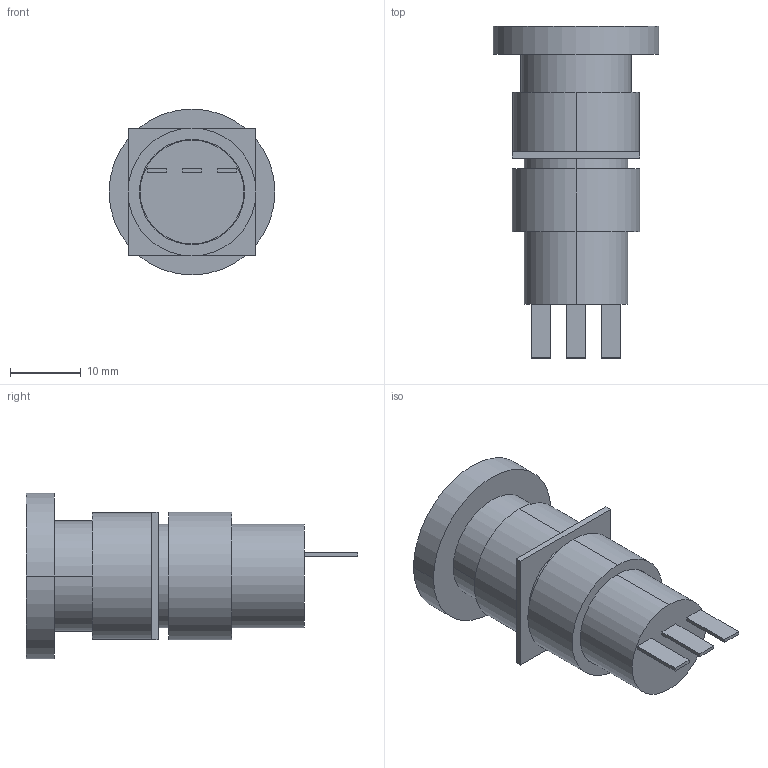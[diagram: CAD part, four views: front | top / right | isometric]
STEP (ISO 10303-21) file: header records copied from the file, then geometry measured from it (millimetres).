
FILE_DESCRIPTION (( 'STEP AP214' ), '1' );
FILE_NAME ('AB6-V.STEP', '2024-08-30T18:14:36', ( '' ), ( '' ), 'SwSTEP 2.0', 'SolidWorks 2023', '' );
FILE_SCHEMA (( 'AUTOMOTIVE_DESIGN' ));
Length unit declared in the file: millimetre
Products named in the file (1): AB6-V
Bounding box: 23.5 x 47 x 23.5 mm (x, y, z)
Volume: 9455.7 mm3; surface area: 4425.3 mm2
Topology: 2 solids, 2 shells, 39 faces, 84 edges, 56 vertices
Faces by surface type: plane 27, cylinder 12
Entity records: 1098 total; most frequent: DIRECTION 188, CARTESIAN_POINT 180, ORIENTED_EDGE 168, EDGE_CURVE 84, AXIS2_PLACEMENT_3D 64, LINE 60, VECTOR 60, VERTEX_POINT 56
